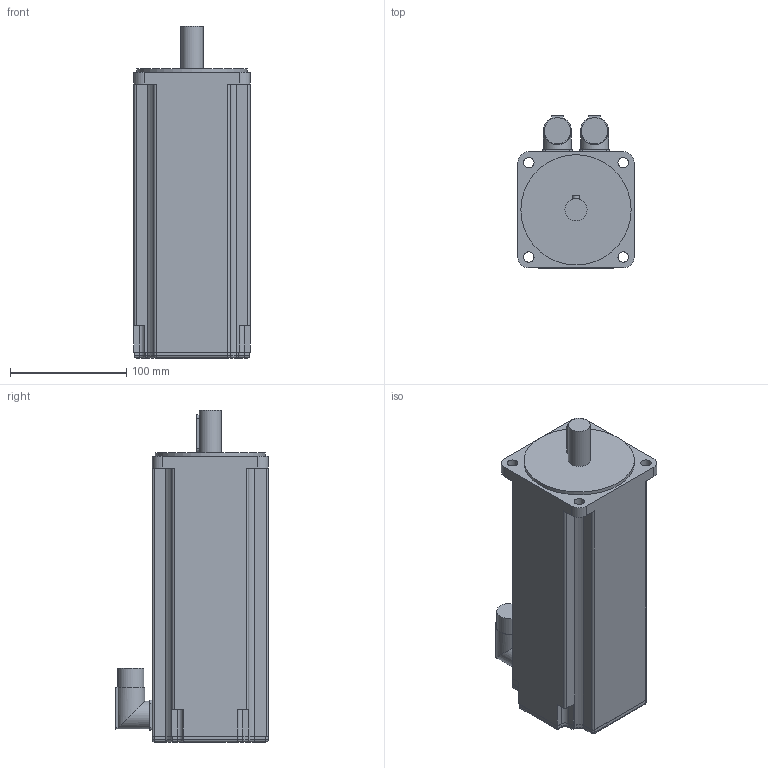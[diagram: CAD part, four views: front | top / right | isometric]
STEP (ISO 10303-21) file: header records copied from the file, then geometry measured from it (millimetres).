
FILE_DESCRIPTION(/* description */ (''),/* implementation_level */ '2;1');
FILE_NAME(/* name */ '\\Lafnas01\disegni\Archivi Lafert\3D\CAD 3D\MODELLI\Assiemi clienti\Serad\Modelli 3D Serad\B63Q\Resolver\Res With Brake\B6310Qxx6B052033.ipt.stp',/* time_stamp */ '2015-09-07T10:51:20+02:00',/* author */ ('Pastrello Ylenia'),/* organization */ (''),/* preprocessor_version */ 'ST-DEVELOPER v15.6',/* originating_system */ 'Autodesk Inventor 2015',/* authorisation */ '');
FILE_SCHEMA (('AUTOMOTIVE_DESIGN { 1 0 10303 214 3 1 1 }'));
Length unit declared in the file: millimetre
Products named in the file (1): B6310Qxx6B052033
Bounding box: 100 x 131.5 x 286 mm (x, y, z)
Volume: 2269545.7 mm3; surface area: 126342.3 mm2
Topology: 1 solids, 1 shells, 162 faces, 420 edges, 270 vertices
Faces by surface type: plane 76, cylinder 74, torus 8, sphere 4
Full cylindrical faces by diameter (mm): 9 x4, 19 x1, 22.7 x2, 24 x2, 95 x1
Entity records: 5018 total; most frequent: CARTESIAN_POINT 973, DIRECTION 864, ORIENTED_EDGE 812, EDGE_CURVE 406, AXIS2_PLACEMENT_3D 305, VERTEX_POINT 266, LINE 254, VECTOR 254
